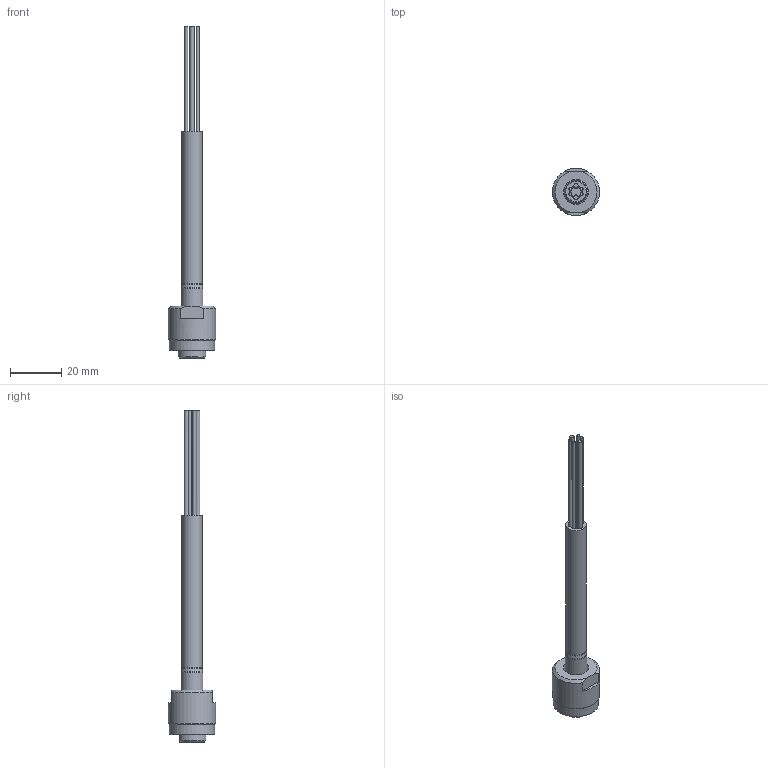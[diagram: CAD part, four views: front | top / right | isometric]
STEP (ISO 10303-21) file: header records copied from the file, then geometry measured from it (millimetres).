
FILE_DESCRIPTION (( 'STEP AP203' ), '1' );
FILE_NAME ('COB-126HX-R1 Cable 6 Pin Hybrid.STEP', '2023-04-27T19:12:55', ( '' ), ( '' ), 'SwSTEP 2.0', 'SolidWorks 2022', '' );
FILE_SCHEMA (( 'CONFIG_CONTROL_DESIGN' ));
Length unit declared in the file: millimetre
Products named in the file (1): COB-126HX-R1 Cable 6 Pin Hybrid
Bounding box: 18.5 x 18.5 x 130 mm (x, y, z)
Volume: 6617.8 mm3; surface area: 7919.9 mm2
Topology: 2 solids, 2 shells, 168 faces, 392 edges, 256 vertices
Faces by surface type: cylinder 60, plane 45, cone 35, torus 25, bspline 3
Full cylindrical faces by diameter (mm): 0.94 x4, 1.13 x4, 1.194 x4, 1.422 x4, 1.626 x4, 1.7 x6, 2.05 x2, 2.45 x2, 8 x1, 8.3 x1, 8.6 x1, 9.5 x1, 9.562 x1, 9.75 x1, 12 x2, 16 x1, 17.75 x1, 18.5 x1
Entity records: 5613 total; most frequent: CARTESIAN_POINT 2242, DIRECTION 701, ORIENTED_EDGE 576, AXIS2_PLACEMENT_3D 332, EDGE_CURVE 288, EDGE_LOOP 261, VERTEX_POINT 223, FACE_OUTER_BOUND 211
